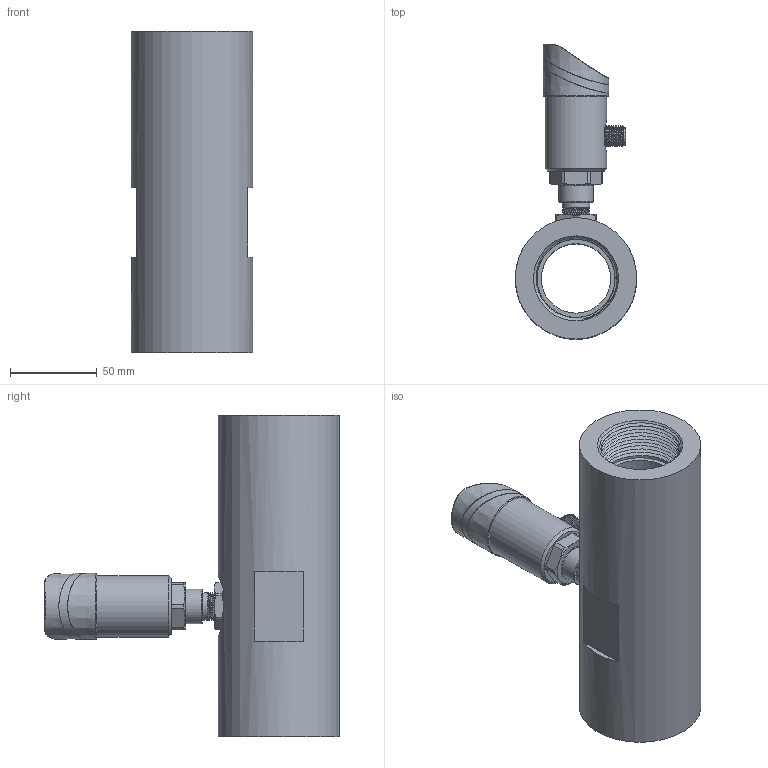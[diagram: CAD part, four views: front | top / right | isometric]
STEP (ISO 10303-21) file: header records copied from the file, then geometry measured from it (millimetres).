
FILE_DESCRIPTION( (''), '2;1');
FILE_NAME( 'QTKE_DN40_female-thread.step', '2024-10-15T10:20:21+08:00', (''), (''), '', '', '');
FILE_SCHEMA (('AUTOMOTIVE_DESIGN { 1 0 10303 214 3 1 1 1 }'));
Length unit declared in the file: millimetre
Products named in the file (1): QTKE DN40_female-thread
Bounding box: 70 x 170 x 185 mm (x, y, z)
Volume: 512624.5 mm3; surface area: 104651.4 mm2
Topology: 5 solids, 6 shells, 842 faces, 2205 edges, 1442 vertices
Faces by surface type: plane 380, extrusion 141, cylinder 132, bspline 76, cone 70, torus 32, sphere 11
Full cylindrical faces by diameter (mm): 1.689 x1, 2.7 x3, 12 x1, 15 x1, 15.9 x1, 16.5 x1, 20 x1, 23 x3, 26 x5, 35.5 x1, 37.001 x1, 40 x1, 45 x1, 70 x1
Entity records: 38218 total; most frequent: CARTESIAN_POINT 17400, ORIENTED_EDGE 4214, DIRECTION 3300, EDGE_CURVE 2107, VERTEX_POINT 1402, VECTOR 1262, LINE 1121, AXIS2_PLACEMENT_3D 1019
